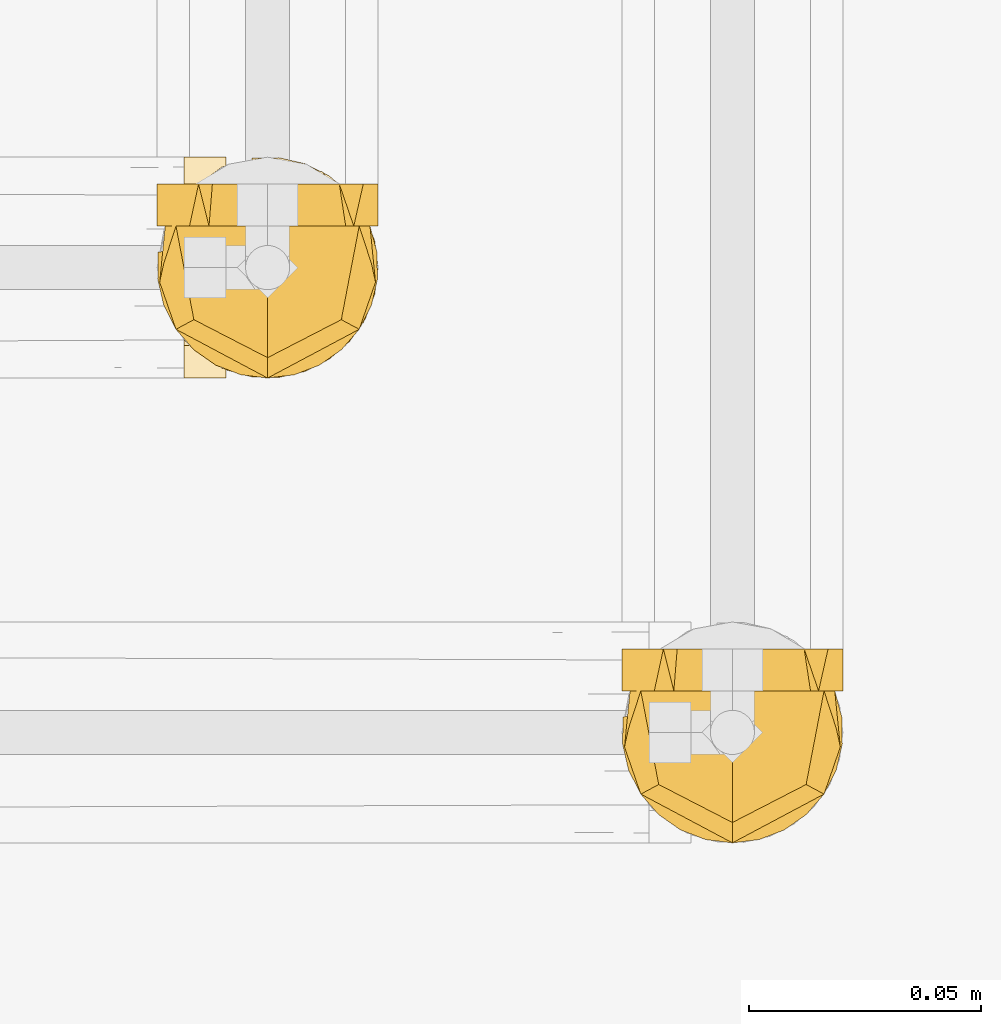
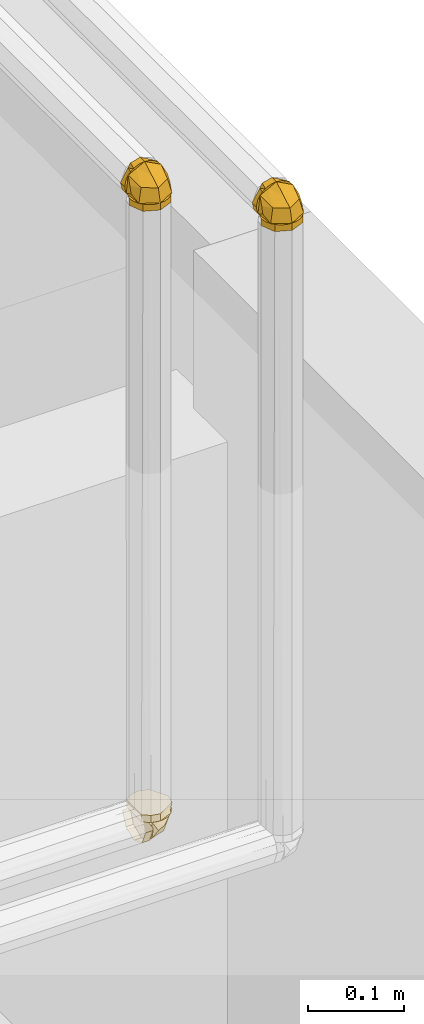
# One storey, part 324 of 652: 3 coverings.
"""IFC2X3 building model written with IfcOpenShell, lengths in millimetres."""

from ifc_helpers import new_model, entity, si_unit, converted_unit, direction, frame, origin, place, context, subcontext, project, spatial, face_set, surface_model, material, type_object, element, save


model = new_model("IFC2X3")

# Units and contexts
model_context = context("Model", 3, precision=0.01, world=frame((0.0, 0.0, 308426.39999999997)), true_north=direction((6.123233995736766e-17, 1.0)))
plan_context = context("Plan", 3, precision=0.01, world=frame((0.0, 0.0, 308426.39999999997)), true_north=direction((6.123233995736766e-17, 1.0)))
body_context = subcontext(model_context, "Body", "Model", "MODEL_VIEW")
ifc_project = project(units=[si_unit("LENGTHUNIT", "METRE", prefix="MILLI"), si_unit("AREAUNIT", "SQUARE_METRE"), si_unit("VOLUMEUNIT", "CUBIC_METRE"), converted_unit("PLANEANGLEUNIT", "DEGREE", entity("IfcPlaneAngleMeasure", 0.017453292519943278), si_unit("PLANEANGLEUNIT", "RADIAN"), dimensions=[0, 0, 0, 0, 0, 0, 0])], contexts=[model_context, plan_context])

# Site, building, storey
site_placement = place(None, origin())
site = spatial("IfcSite", under=ifc_project, at=site_placement, Name="Default", CompositionType="ELEMENT")
building_placement = place(site_placement, origin())
building = spatial("IfcBuilding", under=site, at=building_placement, CompositionType="ELEMENT")
storey_placement = place(building_placement, frame((0.0, 0.0, 1730.6999999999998)))
storey = spatial("IfcBuildingStorey", under=building, at=storey_placement, Name="EG_Produktion_FFB", CompositionType="ELEMENT", Elevation=1730.6999999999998)

# Coverings
ifc_material = material(Name="Dämmung - Armaflex-Schlauch")
covering_type = type_object("IfcCoveringType", Name="Rohrdämmung außen:Armaflex-Schlauch", PredefinedType="INSULATION")
covering_1_placement = place(storey_placement, frame((37814.64222776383, 54369.642227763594, 3480.6110791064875)))
element("IfcCovering", 1, at=covering_1_placement, inside=storey, type_object=covering_type, material=ifc_material, Name="Rohrdämmung außen:Armaflex-Schlauch", ObjectType="Rohrdämmung außen:Armaflex-Schlauch", PredefinedType="INSULATION", context=body_context, shape_type="SurfaceModel", body=[
    surface_model("IfcFaceBasedSurfaceModel", [(47.37827577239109, 34.28827223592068, 10.458420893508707), (48.885203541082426, 28.691896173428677, 10.458420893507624), (48.99253247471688, 22.897179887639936, 10.458420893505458), (47.69387779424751, 17.248839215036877, 10.458420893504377), (45.06649381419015, 12.082882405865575, 10.458420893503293), (41.26667824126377, 7.706621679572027, 10.45842089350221), (36.520474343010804, 4.380391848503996, 10.458420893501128), (31.11022409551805, 2.3020635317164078, 10.458420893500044), (25.357772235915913, 1.5952722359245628, 10.458420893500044), (19.605320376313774, 2.3020635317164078, 10.458420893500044), (14.19507012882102, 4.380391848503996, 10.458420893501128), (9.448866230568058, 7.706621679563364, 10.45842089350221), (5.649050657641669, 12.082882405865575, 10.458420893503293), (3.0216666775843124, 17.248839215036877, 10.458420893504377), (1.7230119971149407, 22.897179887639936, 10.458420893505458), (1.8303409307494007, 28.691896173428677, 10.458420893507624), (3.3372686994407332, 34.28827223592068, 10.458420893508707), (48.885203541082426, 34.28827223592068, 16.054796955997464), (48.99253247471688, 34.28827223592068, 21.84951324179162), (47.69387779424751, 34.28827223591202, 27.497853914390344), (45.06649381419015, 34.28827223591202, 32.66381072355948), (41.26667824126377, 34.28827223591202, 37.04007144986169), (36.520474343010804, 34.28827223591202, 40.36630128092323), (31.11022409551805, 34.28827223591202, 42.444629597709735), (25.357772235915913, 34.28827223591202, 43.15142089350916), (19.605320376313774, 34.28827223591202, 42.444629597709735), (14.19507012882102, 34.28827223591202, 40.36630128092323), (9.448866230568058, 34.28827223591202, 37.04007144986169), (5.649050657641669, 34.28827223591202, 32.663810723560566), (3.0216666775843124, 34.28827223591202, 27.497853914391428), (1.7230119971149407, 34.28827223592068, 21.84951324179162), (1.8303409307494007, 34.28827223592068, 16.054796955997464), (47.71646364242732, 26.1677453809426, 25.365210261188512), (41.216860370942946, 14.149874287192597, 27.879591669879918), (46.2351587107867, 34.288179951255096, 21.432310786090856), (35.09862916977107, 6.778231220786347, 10.45856200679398), (25.35736330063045, 5.973629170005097, 26.804657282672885), (35.2125757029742, 34.288179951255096, 37.9074679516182), (25.35736330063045, 21.2192102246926, 35.60644561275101), (48.57455080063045, 22.223800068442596, 17.538362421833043), (46.223531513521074, 23.186532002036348, 10.45856200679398), (2.9982629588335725, 26.1677453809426, 25.365210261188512), (2.140175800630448, 22.223800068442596, 17.538362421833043), (9.500191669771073, 14.149874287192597, 27.879591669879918), (15.618422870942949, 6.778231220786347, 10.45856200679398), (4.479567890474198, 34.288179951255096, 21.432310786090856), (15.618422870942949, 34.288179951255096, 37.96851073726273), (25.35736330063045, 20.130904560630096, 34.97799560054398), (4.493520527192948, 23.186532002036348, 10.45856200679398), (49.12102907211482, 25.3584924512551, 1.4387637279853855), (49.12102907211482, 25.3584924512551, 10.45856200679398), (42.1609887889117, 8.554866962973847, 10.45856200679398), (42.1609887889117, 8.554866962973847, 1.4387637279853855), (25.35736330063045, 1.597152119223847, 10.45856200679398), (25.35736330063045, 1.597152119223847, 1.4387637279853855), (8.556063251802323, 8.554866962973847, 10.45856200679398), (8.556063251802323, 8.554866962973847, 1.4387637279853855), (1.5960229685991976, 25.3584924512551, 10.45856200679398), (1.5960229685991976, 25.3584924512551, 1.4387637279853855), (4.5655847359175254, 43.30802223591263, 24.533653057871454), (7.53589723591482, 43.30802223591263, 29.678385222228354), (10.506209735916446, 43.30802223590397, 34.823117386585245), (13.47652223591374, 43.30802223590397, 39.96784955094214), (19.417147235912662, 43.30802223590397, 41.55963522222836), (25.357772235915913, 43.30802223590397, 43.151420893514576), (30.502504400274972, 43.30802223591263, 40.18110839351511), (35.6472365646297, 43.30802223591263, 37.21079589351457), (40.791968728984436, 43.30802223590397, 34.240483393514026), (45.93670089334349, 43.30802223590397, 31.270170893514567), (47.528486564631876, 43.30802223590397, 25.329545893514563), (49.12027223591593, 43.30802223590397, 19.38892089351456), (48.07242355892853, 43.30802223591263, 14.510241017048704), (47.024574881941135, 43.30802223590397, 9.631561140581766), (44.06585567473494, 43.30802223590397, 5.613416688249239), (41.10713646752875, 43.30802223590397, 1.595272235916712), (9.608408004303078, 43.30802223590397, 1.595272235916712), (6.649688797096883, 43.30802223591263, 5.613416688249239), (3.690969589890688, 43.30802223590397, 9.631561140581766), (2.6431209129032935, 43.30802223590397, 14.510241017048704), (1.5952722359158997, 43.30802223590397, 19.38892089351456), (8.55514734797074, 34.28827223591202, 36.19154578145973), (6.815178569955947, 34.28827223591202, 31.99088955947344), (5.0752097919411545, 34.28827223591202, 27.790233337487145), (3.3352410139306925, 34.28827223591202, 23.589577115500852), (1.5952722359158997, 34.28827223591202, 19.38892089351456), (2.6431209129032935, 34.28827223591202, 14.510241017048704), (3.690969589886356, 34.28827223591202, 9.631561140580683), (6.729669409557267, 34.28827223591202, 5.504797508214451), (9.608408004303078, 34.28827223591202, 1.595272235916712), (41.10713646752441, 34.28827223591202, 1.595272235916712), (44.06585567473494, 34.28827223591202, 5.613416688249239), (47.024574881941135, 34.28827223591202, 9.631561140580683), (48.100749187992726, 34.28827223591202, 14.64212234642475), (49.12027223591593, 34.28827223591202, 19.38892089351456), (47.38030345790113, 34.28827223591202, 23.589577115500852), (45.64033467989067, 34.28827223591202, 27.790233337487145), (43.90036590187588, 34.28827223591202, 31.99088955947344), (42.16039712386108, 34.28827223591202, 36.19154578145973), (37.959740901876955, 34.28827223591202, 37.93151455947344), (33.759084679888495, 34.28827223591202, 39.67148333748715), (29.55842845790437, 34.28827223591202, 41.411452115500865), (25.357772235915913, 34.28827223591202, 43.151420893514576), (21.157116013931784, 34.28827223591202, 41.411452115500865), (16.956459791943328, 34.28827223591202, 39.67148333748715), (12.755803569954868, 34.28827223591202, 37.93151455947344)], [face_set([[[0, 1, 2, 3, 4, 5, 6, 7, 8, 9, 10, 11, 12, 13, 14, 15]], [[16, 17, 18, 19, 20, 21, 22, 23, 24, 25, 26, 27, 28, 29, 30, 31]], [[32, 20, 33]], [[32, 34, 20]], [[33, 35, 4]], [[35, 33, 36]], [[36, 8, 35]], [[33, 37, 38]], [[39, 4, 40]], [[32, 33, 39]], [[34, 32, 0]], [[4, 39, 33]], [[38, 36, 33]], [[0, 32, 39]], [[33, 20, 37]], [[37, 24, 38]], [[0, 39, 40]], [[41, 16, 42]], [[43, 44, 36]], [[28, 45, 41]], [[46, 43, 47]], [[44, 8, 36]], [[12, 43, 42]], [[44, 43, 12]], [[42, 16, 48, 12]], [[28, 43, 46]], [[16, 41, 45]], [[43, 41, 42]], [[43, 36, 47]], [[47, 24, 46]], [[28, 41, 43]]]), face_set([[[49, 50, 51, 52]], [[53, 54, 52, 51]], [[54, 53, 55, 56]], [[57, 58, 56, 55]]]), face_set([[[59, 60, 61, 62, 63, 64, 65, 66, 67, 68, 69, 70, 71, 72, 73, 74, 75, 76, 77, 78, 79]], [[80, 81, 82, 83, 84, 85, 86, 87, 88, 89, 90, 91, 92, 93, 94, 95, 96, 97, 98, 99, 100, 101, 102, 103, 104]], [[75, 74, 89, 88]], [[71, 70, 93, 92, 91, 72]], [[73, 72, 91, 90, 89, 74]], [[96, 67, 97]], [[64, 100, 65]], [[100, 99, 65]], [[69, 95, 94]], [[94, 93, 70]], [[67, 96, 68]], [[66, 99, 98]], [[64, 101, 100]], [[99, 66, 65]], [[70, 69, 94]], [[98, 97, 67]], [[96, 95, 68]], [[69, 68, 95]], [[66, 98, 67]], [[104, 61, 80]], [[79, 83, 59]], [[83, 82, 59]], [[63, 103, 102]], [[102, 101, 64]], [[61, 104, 62]], [[60, 82, 81]], [[79, 84, 83]], [[82, 60, 59]], [[64, 63, 102]], [[81, 80, 61]], [[104, 103, 62]], [[63, 62, 103]], [[60, 81, 61]], [[76, 75, 88, 87, 86, 77]], [[78, 77, 86, 85, 84, 79]]])]),
])
covering_2_placement = place(storey_placement, frame((37720.61107910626, 54469.64222776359, 2674.642227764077)))
element("IfcCovering", 2, at=covering_2_placement, inside=storey, type_object=covering_type, material=ifc_material, Name="Rohrdämmung außen:Armaflex-Schlauch", ObjectType="Rohrdämmung außen:Armaflex-Schlauch", PredefinedType="INSULATION", context=body_context, shape_type="SurfaceModel", body=[
    surface_model("IfcFaceBasedSurfaceModel", [(10.45842089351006, 47.37827577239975, 34.288272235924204), (10.45842089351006, 48.88520354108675, 28.691896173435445), (10.45842089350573, 48.99253247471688, 22.89717988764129), (10.45842089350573, 47.69387779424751, 17.248839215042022), (10.45842089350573, 45.066493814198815, 12.082882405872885), (10.458420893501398, 41.266678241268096, 7.706621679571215), (10.458420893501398, 36.520474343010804, 4.38039184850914), (10.458420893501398, 31.110224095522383, 2.3020635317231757), (10.458420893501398, 25.357772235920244, 1.595272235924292), (10.458420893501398, 19.605320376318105, 2.3020635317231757), (10.458420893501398, 14.195070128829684, 4.38039184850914), (10.458420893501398, 9.44886623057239, 7.706621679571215), (10.45842089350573, 5.649050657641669, 12.082882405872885), (10.45842089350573, 3.0216666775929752, 17.248839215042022), (10.45842089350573, 1.7230119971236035, 22.89717988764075), (10.45842089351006, 1.8303409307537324, 28.691896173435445), (10.45842089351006, 3.3372686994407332, 34.288272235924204), (16.054796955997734, 1.8303409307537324, 34.28827223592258), (21.849513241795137, 1.7230119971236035, 34.28827223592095), (27.497853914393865, 3.0216666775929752, 34.28827223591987), (32.663810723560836, 5.649050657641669, 34.28827223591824), (37.04007144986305, 9.44886623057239, 34.28827223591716), (40.36630128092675, 14.195070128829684, 34.28827223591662), (42.444629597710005, 19.605320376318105, 34.288272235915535), (43.15142089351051, 25.357772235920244, 34.288272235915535), (42.444629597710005, 31.110224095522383, 34.288272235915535), (40.36630128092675, 36.520474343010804, 34.28827223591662), (37.04007144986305, 41.266678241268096, 34.28827223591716), (32.663810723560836, 45.066493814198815, 34.28827223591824), (27.497853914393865, 47.69387779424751, 34.28827223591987), (21.849513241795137, 48.99253247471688, 34.28827223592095), (16.054796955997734, 48.88520354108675, 34.28827223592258), (25.366343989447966, 47.71846559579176, 26.166056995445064), (27.880144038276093, 41.21653688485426, 14.15167406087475), (21.43170043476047, 46.23483522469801, 34.288235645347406), (10.457951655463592, 35.09598024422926, 6.778286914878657), (26.805791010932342, 25.35703981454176, 5.975428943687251), (37.90743896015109, 35.21225221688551, 34.288235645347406), (35.60757934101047, 25.35703981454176, 21.22013795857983), (17.538914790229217, 48.57422731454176, 22.222983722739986), (10.457951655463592, 46.22088258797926, 23.185715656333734), (25.366343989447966, 3.0002649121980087, 26.166056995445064), (17.538914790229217, 2.1398523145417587, 22.222983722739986), (27.880144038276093, 9.497542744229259, 14.15167406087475), (10.457951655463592, 15.61809938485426, 6.778286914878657), (21.43170043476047, 4.479244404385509, 34.288235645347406), (37.967900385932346, 15.61809938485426, 34.288235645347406), (34.97738524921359, 25.35703981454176, 20.13183229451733), (10.457951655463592, 4.493197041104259, 23.185715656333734), (1.4375720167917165, 49.11838014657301, 25.357676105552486), (10.457951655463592, 49.11838014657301, 25.357676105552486), (10.457951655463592, 42.16066530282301, 8.555213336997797), (1.4375720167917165, 42.16066530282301, 8.555213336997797), (10.457951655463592, 25.35703981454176, 1.5951730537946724), (1.4375720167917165, 25.35703981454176, 1.5951730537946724), (10.457951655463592, 8.553414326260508, 8.555213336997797), (1.4375720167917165, 8.553414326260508, 8.555213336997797), (10.457951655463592, 1.5956994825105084, 25.357676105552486), (1.4375720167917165, 1.5956994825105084, 25.357676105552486), (24.53365305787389, 4.565584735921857, 43.3080222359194), (29.678385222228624, 7.5358972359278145, 43.308022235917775), (34.823117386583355, 10.506209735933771, 43.30802223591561), (39.96784955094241, 13.476522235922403, 43.30802223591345), (41.559635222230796, 19.417147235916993, 43.30802223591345), (43.151420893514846, 25.357772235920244, 43.30802223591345), (40.18110839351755, 30.502504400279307, 43.30802223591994), (37.21079589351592, 35.6472365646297, 43.308022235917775), (34.240483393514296, 40.79196872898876, 43.30802223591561), (31.270170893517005, 45.936700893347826, 43.30802223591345), (25.329545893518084, 47.528486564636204, 43.30802223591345), (19.388920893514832, 49.12027223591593, 43.30802223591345), (14.510241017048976, 48.07242355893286, 43.308022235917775), (9.63156114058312, 47.024574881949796, 43.30802223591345), (5.613416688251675, 44.06585567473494, 43.30802223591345), (1.5952722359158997, 41.10713646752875, 43.30802223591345), (1.5952722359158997, 9.608408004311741, 43.30802223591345), (5.613416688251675, 6.649688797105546, 43.308022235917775), (9.63156114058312, 3.690969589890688, 43.30802223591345), (14.510241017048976, 2.643120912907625, 43.30802223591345), (19.388920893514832, 1.5952722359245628, 43.30802223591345), (36.19154578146, 8.55514734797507, 34.2882722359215), (31.990889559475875, 6.81517856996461, 34.2882722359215), (27.790233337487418, 5.075209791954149, 34.2882722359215), (23.58957711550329, 3.335241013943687, 34.28827223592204), (19.388920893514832, 1.5952722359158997, 34.2882722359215), (14.510241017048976, 2.643120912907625, 34.2882722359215), (9.63156114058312, 3.690969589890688, 34.2882722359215), (5.504797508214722, 6.729669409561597, 34.2882722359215), (1.5952722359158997, 9.608408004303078, 34.2882722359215), (1.5952722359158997, 41.10713646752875, 34.2882722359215), (5.613416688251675, 44.06585567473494, 34.2882722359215), (9.63156114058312, 47.024574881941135, 34.2882722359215), (14.642122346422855, 48.10074918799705, 34.2882722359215), (19.388920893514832, 49.12027223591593, 34.2882722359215), (23.58957711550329, 47.38030345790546, 34.2882722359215), (27.790233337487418, 45.64033467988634, 34.2882722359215), (31.990889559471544, 43.90036590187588, 34.2882722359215), (36.19154578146, 42.160397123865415, 34.2882722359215), (37.931514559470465, 37.95974090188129, 34.2882722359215), (39.67148333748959, 33.759084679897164, 34.2882722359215), (41.41145211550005, 29.558428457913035, 34.2882722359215), (43.151420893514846, 25.357772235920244, 34.2882722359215), (41.41145211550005, 21.157116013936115, 34.2882722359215), (39.67148333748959, 16.956459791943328, 34.2882722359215), (37.9315145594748, 12.755803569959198, 34.2882722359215)], [face_set([[[0, 1, 2, 3, 4, 5, 6, 7, 8, 9, 10, 11, 12, 13, 14, 15]], [[16, 17, 18, 19, 20, 21, 22, 23, 24, 25, 26, 27, 28, 29, 30, 31]], [[32, 28, 33]], [[32, 34, 28]], [[33, 35, 4]], [[35, 33, 36]], [[36, 8, 35]], [[33, 37, 38]], [[39, 4, 40]], [[32, 33, 39]], [[34, 32, 0]], [[4, 39, 33]], [[38, 36, 33]], [[0, 32, 39]], [[33, 28, 37]], [[37, 24, 38]], [[0, 39, 40]], [[41, 16, 42]], [[43, 44, 36]], [[20, 45, 41]], [[46, 43, 47]], [[44, 8, 36]], [[12, 43, 42]], [[44, 43, 12]], [[42, 16, 48]], [[20, 43, 46]], [[16, 41, 45]], [[43, 41, 42]], [[43, 36, 47]], [[47, 24, 46]], [[20, 41, 43]], [[48, 12, 42]]]), face_set([[[49, 50, 51, 52]], [[53, 54, 52, 51]], [[54, 53, 55, 56]], [[57, 58, 56, 55]]]), face_set([[[59, 60, 61, 62, 63, 64, 65, 66, 67, 68, 69, 70, 71, 72, 73, 74, 75, 76, 77, 78, 79]], [[80, 81, 82, 83, 84, 85, 86, 87, 88, 89, 90, 91, 92, 93, 94, 95, 96, 97, 98, 99, 100, 101, 102, 103, 104]], [[75, 74, 89, 88]], [[71, 70, 93, 92, 91, 72]], [[73, 72, 91, 90, 89, 74]], [[96, 67, 97]], [[64, 100, 65]], [[100, 99, 65]], [[69, 95, 94]], [[94, 93, 70]], [[67, 96, 68]], [[66, 99, 98]], [[64, 101, 100]], [[99, 66, 65]], [[70, 69, 94]], [[98, 97, 67]], [[96, 95, 68]], [[69, 68, 95]], [[66, 98, 67]], [[104, 61, 80]], [[79, 83, 59]], [[83, 82, 59]], [[63, 103, 102]], [[102, 101, 64]], [[61, 104, 62]], [[60, 82, 81]], [[79, 84, 83]], [[82, 60, 59]], [[64, 63, 102]], [[81, 80, 61]], [[104, 103, 62]], [[63, 62, 103]], [[60, 81, 61]], [[76, 75, 88, 87, 86, 77]], [[78, 77, 86, 85, 84, 79]]])]),
])
covering_3_placement = place(storey_placement, frame((37714.64222776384, 54469.642227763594, 3480.611079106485)))
element("IfcCovering", 3, at=covering_3_placement, inside=storey, type_object=covering_type, material=ifc_material, Name="Rohrdämmung außen:Armaflex-Schlauch", ObjectType="Rohrdämmung außen:Armaflex-Schlauch", PredefinedType="INSULATION", context=body_context, shape_type="SurfaceModel", body=[
    surface_model("IfcFaceBasedSurfaceModel", [(47.37827577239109, 34.28827223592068, 10.458420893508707), (48.885203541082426, 28.691896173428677, 10.458420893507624), (48.99253247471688, 22.897179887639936, 10.458420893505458), (47.69387779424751, 17.248839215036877, 10.458420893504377), (45.06649381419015, 12.082882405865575, 10.458420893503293), (41.26667824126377, 7.706621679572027, 10.45842089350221), (36.520474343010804, 4.380391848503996, 10.458420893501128), (31.11022409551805, 2.3020635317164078, 10.458420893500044), (25.357772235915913, 1.5952722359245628, 10.458420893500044), (19.605320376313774, 2.3020635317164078, 10.458420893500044), (14.19507012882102, 4.380391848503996, 10.458420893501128), (9.448866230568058, 7.706621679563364, 10.45842089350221), (5.649050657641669, 12.082882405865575, 10.458420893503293), (3.0216666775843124, 17.248839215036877, 10.458420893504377), (1.7230119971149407, 22.897179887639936, 10.458420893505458), (1.8303409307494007, 28.691896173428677, 10.458420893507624), (3.3372686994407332, 34.28827223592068, 10.458420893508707), (48.885203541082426, 34.28827223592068, 16.054796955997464), (48.99253247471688, 34.28827223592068, 21.84951324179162), (47.69387779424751, 34.28827223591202, 27.497853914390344), (45.06649381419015, 34.28827223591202, 32.66381072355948), (41.26667824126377, 34.28827223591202, 37.04007144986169), (36.520474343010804, 34.28827223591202, 40.36630128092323), (31.11022409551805, 34.28827223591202, 42.444629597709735), (25.357772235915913, 34.28827223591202, 43.15142089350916), (19.605320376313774, 34.28827223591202, 42.444629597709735), (14.19507012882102, 34.28827223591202, 40.36630128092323), (9.448866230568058, 34.28827223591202, 37.04007144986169), (5.649050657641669, 34.28827223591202, 32.663810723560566), (3.0216666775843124, 34.28827223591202, 27.497853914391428), (1.7230119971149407, 34.28827223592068, 21.84951324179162), (1.8303409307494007, 34.28827223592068, 16.054796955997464), (47.717916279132, 26.166292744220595, 25.365210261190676), (41.2159875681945, 14.153072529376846, 27.879591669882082), (46.236611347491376, 34.286727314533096, 21.43231078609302), (35.097756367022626, 6.7767785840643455, 10.458562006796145), (25.358815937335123, 5.976827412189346, 26.804657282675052), (35.21170290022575, 34.286727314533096, 37.90746795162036), (25.358815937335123, 21.222408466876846, 35.60644561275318), (48.576003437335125, 22.222347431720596, 17.53836242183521), (46.22265871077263, 23.185079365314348, 10.458562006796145), (2.999715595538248, 26.166292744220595, 25.365210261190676), (2.139302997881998, 22.222347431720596, 17.53836242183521), (9.499318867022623, 14.153072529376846, 27.879591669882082), (15.617550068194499, 6.7767785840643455, 10.458562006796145), (4.4786950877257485, 34.286727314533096, 21.43231078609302), (15.617550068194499, 34.286727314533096, 37.96851073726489), (25.358815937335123, 20.134102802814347, 34.977995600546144), (4.492647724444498, 23.185079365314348, 10.458562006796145), (49.120156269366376, 25.357039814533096, 1.4387637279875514), (49.120156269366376, 25.357039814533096, 10.458562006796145), (42.16011598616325, 8.553414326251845, 10.458562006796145), (42.16011598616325, 8.553414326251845, 1.4387637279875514), (25.358815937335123, 1.5956994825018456, 10.458562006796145), (25.358815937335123, 1.5956994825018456, 1.4387637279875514), (8.555190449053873, 8.553414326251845, 10.458562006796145), (8.555190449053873, 8.553414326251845, 1.4387637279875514), (1.5951501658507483, 25.357039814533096, 10.458562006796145), (1.5951501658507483, 25.357039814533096, 1.4387637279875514), (4.565584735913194, 43.30802223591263, 24.533653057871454), (7.53589723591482, 43.30802223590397, 29.678385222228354), (10.506209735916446, 43.30802223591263, 34.823117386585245), (13.47652223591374, 43.30802223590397, 39.96784955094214), (19.417147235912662, 43.30802223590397, 41.55963522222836), (25.357772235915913, 43.30802223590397, 43.151420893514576), (30.502504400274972, 43.30802223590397, 40.18110839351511), (35.6472365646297, 43.30802223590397, 37.21079589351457), (40.79196872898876, 43.30802223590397, 34.240483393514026), (45.93670089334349, 43.30802223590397, 31.270170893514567), (47.528486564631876, 43.30802223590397, 25.329545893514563), (49.12027223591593, 43.30802223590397, 19.38892089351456), (48.07242355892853, 43.30802223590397, 14.510241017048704), (47.024574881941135, 43.30802223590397, 9.631561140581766), (44.06585567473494, 43.30802223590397, 5.613416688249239), (41.10713646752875, 43.30802223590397, 1.595272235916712), (9.608408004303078, 43.30802223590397, 1.595272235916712), (6.649688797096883, 43.30802223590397, 5.613416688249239), (3.690969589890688, 43.30802223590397, 9.631561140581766), (2.6431209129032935, 43.30802223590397, 14.510241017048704), (1.5952722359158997, 43.30802223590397, 19.38892089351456), (8.55514734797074, 34.28827223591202, 36.19154578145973), (6.8151785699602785, 34.28827223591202, 31.99088955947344), (5.0752097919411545, 34.28827223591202, 27.790233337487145), (3.3352410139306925, 34.28827223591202, 23.589577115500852), (1.5952722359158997, 34.28827223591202, 19.38892089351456), (2.6431209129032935, 34.28827223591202, 14.510241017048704), (3.690969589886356, 34.28827223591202, 9.631561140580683), (6.729669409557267, 34.28827223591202, 5.504797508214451), (9.608408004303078, 34.28827223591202, 1.595272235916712), (41.10713646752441, 34.28827223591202, 1.595272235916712), (44.06585567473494, 34.28827223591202, 5.613416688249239), (47.024574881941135, 34.28827223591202, 9.631561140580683), (48.100749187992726, 34.28827223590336, 14.64212234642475), (49.12027223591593, 34.28827223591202, 19.38892089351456), (47.38030345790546, 34.28827223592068, 23.589577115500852), (45.64033467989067, 34.28827223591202, 27.790233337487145), (43.900365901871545, 34.28827223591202, 31.99088955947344), (42.16039712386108, 34.28827223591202, 36.19154578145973), (37.95974090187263, 34.28827223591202, 37.93151455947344), (33.759084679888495, 34.28827223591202, 39.67148333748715), (29.55842845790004, 34.28827223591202, 41.411452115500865), (25.357772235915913, 34.28827223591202, 43.151420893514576), (21.157116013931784, 34.28827223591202, 41.411452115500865), (16.956459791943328, 34.28827223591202, 39.67148333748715), (12.755803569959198, 34.28827223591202, 37.93151455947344)], [face_set([[[0, 1, 2, 3, 4, 5, 6, 7, 8, 9, 10, 11, 12, 13, 14, 15]], [[16, 17, 18, 19, 20, 21, 22, 23, 24, 25, 26, 27, 28, 29, 30, 31]], [[32, 20, 33]], [[32, 34, 20]], [[33, 35, 4]], [[35, 33, 36]], [[36, 8, 35]], [[33, 37, 38]], [[39, 4, 40, 0]], [[32, 33, 39]], [[34, 32, 0]], [[4, 39, 33]], [[38, 36, 33]], [[0, 32, 39]], [[33, 20, 37]], [[37, 24, 38]], [[41, 16, 42]], [[43, 44, 36]], [[28, 45, 41]], [[46, 43, 47]], [[44, 8, 36]], [[12, 43, 42]], [[44, 43, 12]], [[42, 16, 48, 12]], [[28, 43, 46]], [[16, 41, 45]], [[43, 41, 42]], [[43, 36, 47]], [[47, 24, 46]], [[28, 41, 43]]]), face_set([[[49, 50, 51, 52]], [[53, 54, 52, 51]], [[54, 53, 55, 56]], [[57, 58, 56, 55]]]), face_set([[[59, 60, 61, 62, 63, 64, 65, 66, 67, 68, 69, 70, 71, 72, 73, 74, 75, 76, 77, 78, 79]], [[80, 81, 82, 83, 84, 85, 86, 87, 88, 89, 90, 91, 92, 93, 94, 95, 96, 97, 98, 99, 100, 101, 102, 103, 104]], [[75, 74, 89, 88]], [[71, 70, 93, 92, 91, 72]], [[73, 72, 91, 90, 89, 74]], [[96, 67, 97]], [[64, 100, 65]], [[100, 99, 65]], [[69, 95, 94]], [[94, 93, 70]], [[67, 96, 68]], [[66, 99, 98]], [[64, 101, 100]], [[99, 66, 65]], [[70, 69, 94]], [[98, 97, 67]], [[96, 95, 68]], [[69, 68, 95]], [[66, 98, 67]], [[104, 61, 80]], [[79, 83, 59]], [[83, 82, 59]], [[63, 103, 102]], [[102, 101, 64]], [[61, 104, 62]], [[60, 82, 81]], [[79, 84, 83]], [[82, 60, 59]], [[64, 63, 102]], [[81, 80, 61]], [[104, 103, 62]], [[63, 62, 103]], [[60, 81, 61]], [[76, 75, 88, 87, 86, 77]], [[78, 77, 86, 85, 84, 79]]])]),
])

save(model, "model.ifc")
